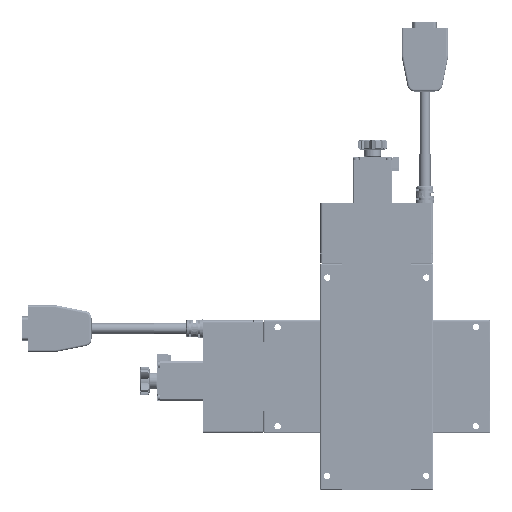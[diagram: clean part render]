
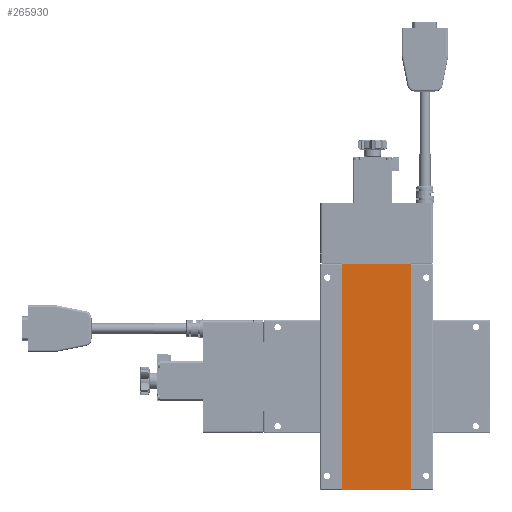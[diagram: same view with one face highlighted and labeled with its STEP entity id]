
A CAD part, front view. The second image highlights one B-rep face of the part: STEP entity #265930.
In plain terms, the highlighted planar face has unit normal (0, -1, 0).
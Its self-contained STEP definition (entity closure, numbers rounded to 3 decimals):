
#10005 = DIRECTION ( 'NONE',  ( 1., 0., 0. ) ) ;
#31203 = ORIENTED_EDGE ( 'NONE', *, *, #97816, .T. ) ;
#43901 = CARTESIAN_POINT ( 'NONE',  ( -24.3, 0.5, 159.8 ) ) ;
#67185 = CARTESIAN_POINT ( 'NONE',  ( -24.3, 0.5, 159.8 ) ) ;
#75614 = VECTOR ( 'NONE', #96620, 1000. ) ;
#78596 = EDGE_CURVE ( 'NONE', #214659, #255001, #105350, .T. ) ;
#93821 = LINE ( 'NONE', #223211, #75614 ) ;
#96620 = DIRECTION ( 'NONE',  ( 0., 0., -1. ) ) ;
#97816 = EDGE_CURVE ( 'NONE', #255001, #145381, #236515, .T. ) ;
#98437 = PLANE ( 'NONE',  #262522 ) ;
#99967 = VERTEX_POINT ( 'NONE', #188241 ) ;
#105350 = LINE ( 'NONE', #147540, #230340 ) ;
#115344 = DIRECTION ( 'NONE',  ( -1., 0., 0. ) ) ;
#116045 = EDGE_LOOP ( 'NONE', ( #152693, #192906, #183168, #31203 ) ) ;
#136653 = VECTOR ( 'NONE', #212672, 1000. ) ;
#137824 = FACE_OUTER_BOUND ( 'NONE', #116045, .T. ) ;
#145381 = VERTEX_POINT ( 'NONE', #67185 ) ;
#147540 = CARTESIAN_POINT ( 'NONE',  ( 24.3, 0.5, 0.2 ) ) ;
#148215 = CARTESIAN_POINT ( 'NONE',  ( 24.3, 0.5, 0.2 ) ) ;
#152693 = ORIENTED_EDGE ( 'NONE', *, *, #221795, .T. ) ;
#178626 = DIRECTION ( 'NONE',  ( 0., 1., 0. ) ) ;
#178629 = EDGE_CURVE ( 'NONE', #99967, #214659, #182991, .T. ) ;
#182991 = LINE ( 'NONE', #202700, #259122 ) ;
#183168 = ORIENTED_EDGE ( 'NONE', *, *, #78596, .T. ) ;
#188241 = CARTESIAN_POINT ( 'NONE',  ( -24.3, 0.5, 0.2 ) ) ;
#192906 = ORIENTED_EDGE ( 'NONE', *, *, #178629, .T. ) ;
#202530 = CARTESIAN_POINT ( 'NONE',  ( -24.3, 0.5, 159.8 ) ) ;
#202700 = CARTESIAN_POINT ( 'NONE',  ( -24.3, 0.5, 0.2 ) ) ;
#212672 = DIRECTION ( 'NONE',  ( -1., 0., 0. ) ) ;
#214659 = VERTEX_POINT ( 'NONE', #148215 ) ;
#221795 = EDGE_CURVE ( 'NONE', #145381, #99967, #93821, .T. ) ;
#223211 = CARTESIAN_POINT ( 'NONE',  ( -24.3, 0.5, 0.2 ) ) ;
#230340 = VECTOR ( 'NONE', #233280, 1000. ) ;
#233280 = DIRECTION ( 'NONE',  ( 0., 0., 1. ) ) ;
#236515 = LINE ( 'NONE', #43901, #136653 ) ;
#251007 = CARTESIAN_POINT ( 'NONE',  ( 24.3, 0.5, 159.8 ) ) ;
#255001 = VERTEX_POINT ( 'NONE', #251007 ) ;
#259122 = VECTOR ( 'NONE', #10005, 1000. ) ;
#262522 = AXIS2_PLACEMENT_3D ( 'NONE', #202530, #178626, #115344 ) ;
#265930 = ADVANCED_FACE ( 'NONE', ( #137824 ), #98437, .F. ) ;
